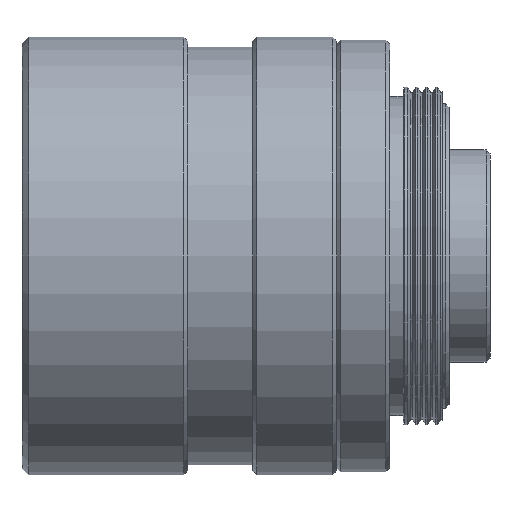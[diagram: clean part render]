
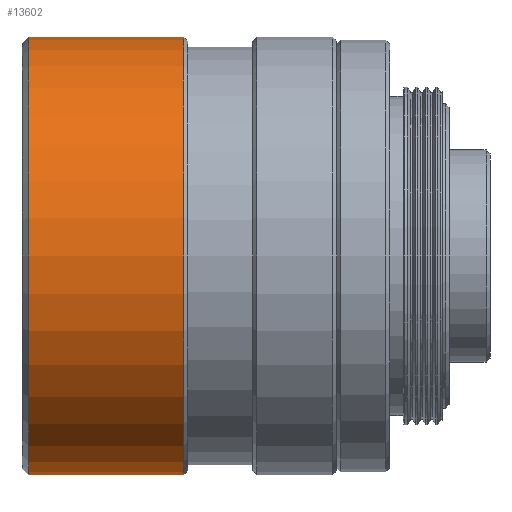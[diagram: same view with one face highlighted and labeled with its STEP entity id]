
A CAD part, front view. The second image highlights one B-rep face of the part: STEP entity #13602.
In plain terms, the highlighted cylindrical face has radius 16.5 mm (diameter 33 mm), a full revolution.
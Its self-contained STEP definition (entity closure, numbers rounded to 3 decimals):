
#2188=FACE_BOUND('',#3737,.T.);
#2885=FACE_OUTER_BOUND('',#3736,.T.);
#3736=EDGE_LOOP('',(#11925));
#3737=EDGE_LOOP('',(#11926));
#4631=CIRCLE('',#14883,16.5);
#4632=CIRCLE('',#14885,16.5);
#5883=VERTEX_POINT('',#66672);
#5884=VERTEX_POINT('',#66675);
#7904=EDGE_CURVE('',#5883,#5883,#4631,.T.);
#7905=EDGE_CURVE('',#5884,#5884,#4632,.T.);
#11925=ORIENTED_EDGE('',*,*,#7904,.T.);
#11926=ORIENTED_EDGE('',*,*,#7905,.F.);
#12180=CYLINDRICAL_SURFACE('',#14884,16.5);
#13602=ADVANCED_FACE('',(#2885,#2188),#12180,.T.);
#14883=AXIS2_PLACEMENT_3D('',#66673,#17772,#17773);
#14884=AXIS2_PLACEMENT_3D('',#66674,#17774,#17775);
#14885=AXIS2_PLACEMENT_3D('',#66676,#17776,#17777);
#17772=DIRECTION('center_axis',(-1.,0.,0.));
#17773=DIRECTION('ref_axis',(0.,0.,-1.));
#17774=DIRECTION('center_axis',(-1.,0.,0.));
#17775=DIRECTION('ref_axis',(0.,-1.,0.));
#17776=DIRECTION('center_axis',(-1.,0.,0.));
#17777=DIRECTION('ref_axis',(0.,0.,-1.));
#66672=CARTESIAN_POINT('',(-12.036,-16.5,0.));
#66673=CARTESIAN_POINT('Origin',(-12.036,0.,0.));
#66674=CARTESIAN_POINT('Origin',(-17.886,0.,0.));
#66675=CARTESIAN_POINT('',(-23.736,-16.5,0.));
#66676=CARTESIAN_POINT('Origin',(-23.736,0.,0.));
